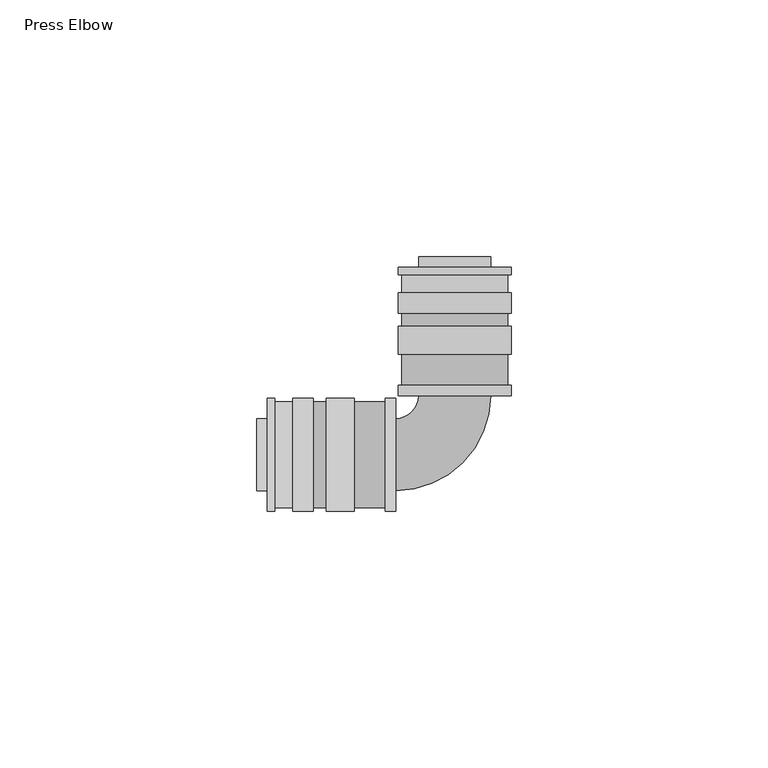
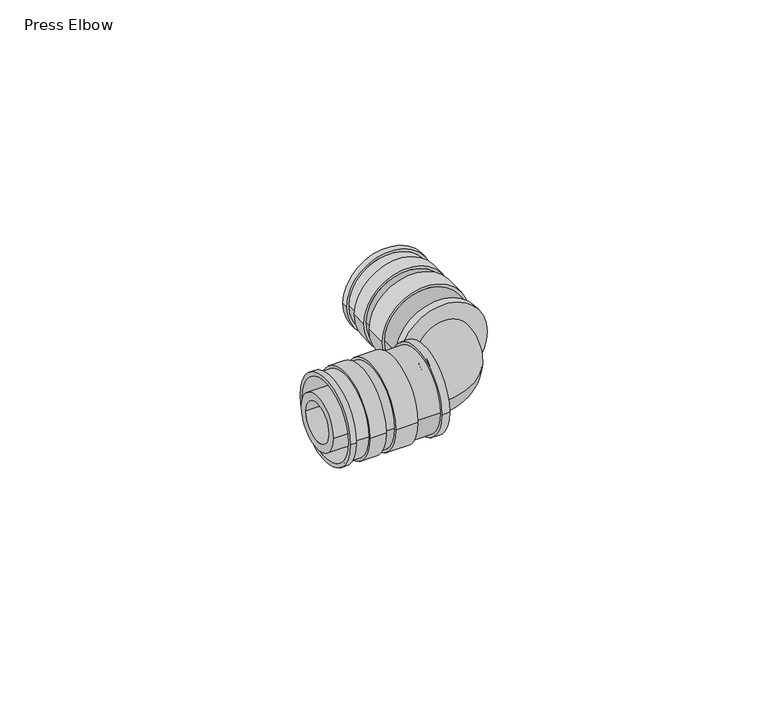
"""IFC4 building model written with IfcOpenShell, lengths in millimetres: pipe fitting geometry, Press Elbow : Superpipe Press Elbow."""

from ifc_helpers import new_model, si_unit, point, frame, origin, origin_2d, place, context, project, spatial, polyline, circle_curve, ellipse_curve, trimmed, segment, composite_curve, outline, extrude, source, transform, mapped, element, save
from ifc_brep_helpers import plane_surface, cylinder_surface, revolved_surface, advanced_brep


def press_elbow_8b702b1f(model_context):
    return source(origin(), model_context, "Body", "SolidModel", [
        advanced_brep(
        [(-10.3, 13.5, 0.0), (10.3, 13.5, 0.0), (10.0, 13.5, 0.0), (-10.0, 13.5, 0.0), (11.0, 36.5, 0.0), (-11.0, 36.5, 0.0), (10.0, 36.5, 0.0), (-10.0, 36.5, 0.0), (11.0, 35.0, 0.0), (-11.0, 35.0, 0.0), (11.0, 19.5, 0.0), (-11.0, 19.5, 0.0), (-11.0, 25.0, 0.0), (11.0, 25.0, 0.0), (11.0, 27.5, 0.0), (-11.0, 27.5, 0.0), (-11.0, 31.5, 0.0), (11.0, 31.5, 0.0), (10.3, 19.5, 0.0), (-10.3, 19.5, 0.0), (10.3, 25.0, 0.0), (-10.3, 25.0, 0.0), (10.3, 27.5, 0.0), (-10.3, 27.5, 0.0), (-10.3, 35.0, 0.0), (10.3, 35.0, 0.0), (-10.3, 31.5, 0.0), (10.3, 31.5, 0.0)],
        [
            (0, 1, circle_curve(frame((0.0, 13.5, 0.0), z_axis=(0.0, -1.0, 0.0), x_axis=(-1.0, 0.0, 0.0)), 10.3)),
            (1, 0, circle_curve(frame((0.0, 13.5, 0.0), z_axis=(0.0, -1.0, 0.0), x_axis=(-1.0, 0.0, 0.0)), 10.3)),
            (2, 3, circle_curve(frame((0.0, 13.5, 0.0), z_axis=(0.0, 1.0, 0.0), x_axis=(-1.0, 0.0, 0.0)), 10.0)),
            (3, 2, circle_curve(frame((0.0, 13.5, 0.0), z_axis=(0.0, 1.0, 0.0), x_axis=(-1.0, 0.0, 0.0)), 10.0)),
            (4, 5, circle_curve(frame((0.0, 36.5, 0.0), z_axis=(0.0, 1.0, 0.0), x_axis=(-1.0, 0.0, 0.0)), 11.0)),
            (5, 4, circle_curve(frame((0.0, 36.5, 0.0), z_axis=(0.0, 1.0, 0.0), x_axis=(-1.0, 0.0, 0.0)), 11.0)),
            (6, 7, circle_curve(frame((0.0, 36.5, 0.0), z_axis=(0.0, -1.0, 0.0), x_axis=(-1.0, 0.0, 0.0)), 10.0)),
            (7, 6, circle_curve(frame((0.0, 36.5, 0.0), z_axis=(0.0, -1.0, 0.0), x_axis=(-1.0, 0.0, 0.0)), 10.0)),
            (4, 8),
            (8, 9, circle_curve(frame((0.0, 35.0, 0.0), z_axis=(0.0, 1.0, 0.0), x_axis=(-1.0, 0.0, 0.0)), 11.0)),
            (9, 5),
            (10, 11, circle_curve(frame((0.0, 19.5, 0.0), z_axis=(0.0, 1.0, 0.0), x_axis=(-1.0, 0.0, 0.0)), 11.0)),
            (11, 12),
            (12, 13, circle_curve(frame((0.0, 25.0, 0.0), z_axis=(0.0, -1.0, 0.0), x_axis=(-1.0, 0.0, 0.0)), 11.0)),
            (13, 10),
            (14, 15, circle_curve(frame((0.0, 27.5, 0.0), z_axis=(0.0, 1.0, 0.0), x_axis=(-1.0, 0.0, 0.0)), 11.0)),
            (15, 16),
            (16, 17, circle_curve(frame((0.0, 31.5, 0.0), z_axis=(0.0, -1.0, 0.0), x_axis=(-1.0, 0.0, 0.0)), 11.0)),
            (17, 14),
            (9, 8, circle_curve(frame((0.0, 35.0, 0.0), z_axis=(0.0, 1.0, 0.0), x_axis=(-1.0, 0.0, 0.0)), 11.0)),
            (11, 10, circle_curve(frame((0.0, 19.5, 0.0), z_axis=(0.0, 1.0, 0.0), x_axis=(-1.0, 0.0, 0.0)), 11.0)),
            (13, 12, circle_curve(frame((0.0, 25.0, 0.0), z_axis=(0.0, -1.0, 0.0), x_axis=(-1.0, 0.0, 0.0)), 11.0)),
            (15, 14, circle_curve(frame((0.0, 27.5, 0.0), z_axis=(0.0, 1.0, 0.0), x_axis=(-1.0, 0.0, 0.0)), 11.0)),
            (17, 16, circle_curve(frame((0.0, 31.5, 0.0), z_axis=(0.0, -1.0, 0.0), x_axis=(-1.0, 0.0, 0.0)), 11.0)),
            (3, 7),
            (6, 2),
            (18, 19, circle_curve(frame((0.0, 19.5, 0.0), z_axis=(0.0, 1.0, 0.0), x_axis=(-1.0, 0.0, 0.0)), 10.3)),
            (19, 18, circle_curve(frame((0.0, 19.5, 0.0), z_axis=(0.0, 1.0, 0.0), x_axis=(-1.0, 0.0, 0.0)), 10.3)),
            (18, 1),
            (0, 19),
            (20, 21, circle_curve(frame((0.0, 25.0, 0.0), z_axis=(0.0, -1.0, 0.0), x_axis=(-1.0, 0.0, 0.0)), 10.3)),
            (21, 20, circle_curve(frame((0.0, 25.0, 0.0), z_axis=(0.0, -1.0, 0.0), x_axis=(-1.0, 0.0, 0.0)), 10.3)),
            (22, 23, circle_curve(frame((0.0, 27.5, 0.0), z_axis=(0.0, 1.0, 0.0), x_axis=(-1.0, 0.0, 0.0)), 10.3)),
            (23, 22, circle_curve(frame((0.0, 27.5, 0.0), z_axis=(0.0, 1.0, 0.0), x_axis=(-1.0, 0.0, 0.0)), 10.3)),
            (21, 23),
            (22, 20),
            (24, 25, circle_curve(frame((0.0, 35.0, 0.0), z_axis=(0.0, 1.0, 0.0), x_axis=(1.0, 0.0, 0.0)), 10.3)),
            (25, 24, circle_curve(frame((0.0, 35.0, 0.0), z_axis=(0.0, 1.0, 0.0), x_axis=(1.0, 0.0, 0.0)), 10.3)),
            (26, 27, circle_curve(frame((0.0, 31.5, 0.0), z_axis=(0.0, -1.0, 0.0), x_axis=(1.0, 0.0, 0.0)), 10.3)),
            (27, 26, circle_curve(frame((0.0, 31.5, 0.0), z_axis=(0.0, -1.0, 0.0), x_axis=(1.0, 0.0, 0.0)), 10.3)),
            (25, 27),
            (26, 24),
        ],
        [
            plane_surface(frame((0.0, 13.5, 0.0), z_axis=(0.0, -1.0, 0.0), x_axis=(0.0, 0.0, 1.0))),
            plane_surface(frame((0.0, 36.5, 0.0), z_axis=(0.0, 1.0, 0.0), x_axis=(0.0, 0.0, 1.0))),
            cylinder_surface(frame((0.0, 13.5, 0.0), z_axis=(0.0, -1.0, 0.0), x_axis=(-1.0, 0.0, 0.0)), 11.0),
            revolved_surface(polyline([(-10.0, 36.5, 0.0), (-10.0, 13.5, 0.0)]), (0.0, 13.5, 0.0), (0.0, 1.0, 0.0)),
            plane_surface(frame((0.0, 19.5, 0.0), z_axis=(0.0, -1.0, 0.0), x_axis=(0.0, 0.0, 1.0))),
            cylinder_surface(frame((0.0, 13.5, 0.0), z_axis=(0.0, 1.0, 0.0), x_axis=(-1.0, 0.0, 0.0)), 10.3),
            plane_surface(frame((0.0, 25.0, 0.0), z_axis=(0.0, 1.0, 0.0), x_axis=(0.0, 0.0, 1.0))),
            plane_surface(frame((0.0, 27.5, 0.0), z_axis=(0.0, -1.0, 0.0), x_axis=(0.0, 0.0, 1.0))),
            cylinder_surface(frame((0.0, 25.0, 0.0), z_axis=(0.0, 1.0, 0.0), x_axis=(-1.0, 0.0, 0.0)), 10.3),
            plane_surface(frame((0.0, 35.0, 0.0), z_axis=(0.0, -1.0, 0.0), x_axis=(0.0, 0.0, 1.0))),
            plane_surface(frame((0.0, 31.5, 0.0), z_axis=(0.0, 1.0, 0.0), x_axis=(0.0, 0.0, 1.0))),
            cylinder_surface(frame((0.0, 35.0, 0.0), z_axis=(0.0, -1.0, 0.0), x_axis=(1.0, 0.0, 0.0)), 10.3),
        ],
        [
            (0, [[1, 2], [3, 4]]),
            (1, [[5, 6], [7, 8]]),
            (2, [[-5, 9, 10, 11]]),
            (2, [[12, 13, 14, 15]]),
            (2, [[16, 17, 18, 19]]),
            (2, [[-6, -11, 20, -9]]),
            (2, [[21, -15, 22, -13]]),
            (2, [[23, -19, 24, -17]]),
            (3, [[-4, 25, -7, 26]]),
            (3, [[-3, -26, -8, -25]]),
            (4, [[-12, -21], [27, 28]]),
            (5, [[-27, 29, -1, 30]]),
            (5, [[-28, -30, -2, -29]]),
            (6, [[-14, -22], [31, 32]]),
            (7, [[-16, -23], [33, 34]]),
            (8, [[-32, 35, -33, 36]]),
            (8, [[-31, -36, -34, -35]]),
            (9, [[-10, -20], [37, 38]]),
            (10, [[-18, -24], [39, 40]]),
            (11, [[-38, 41, -39, 42]]),
            (11, [[-37, -42, -40, -41]]),
        ],
    ),
        advanced_brep(
        [(-13.5, -10.3, 0.0), (-13.5, 10.3, 0.0), (-13.5, 10.0, 0.0), (-13.5, -10.0, 0.0), (-36.5, 11.0, 0.0), (-36.5, -11.0, 0.0), (-36.5, 10.0, 0.0), (-36.5, -10.0, 0.0), (-35.0, 11.0, 0.0), (-35.0, -11.0, 0.0), (-25.0, -11.0, 0.0), (-25.0, 11.0, 0.0), (-19.5, 11.0, 0.0), (-19.5, -11.0, 0.0), (-27.5, 11.0, 0.0), (-27.5, -11.0, 0.0), (-31.5, -11.0, 0.0), (-31.5, 11.0, 0.0), (-25.0, 10.3, 0.0), (-25.0, -10.3, 0.0), (-27.5, 10.3, 0.0), (-27.5, -10.3, 0.0), (-35.0, -10.3, 0.0), (-35.0, 10.3, 0.0), (-31.5, -10.3, 0.0), (-31.5, 10.3, 0.0), (-19.5, 10.3, 0.0), (-19.5, -10.3, 0.0)],
        [
            (0, 1, circle_curve(frame((-13.5, 0.0, 0.0), z_axis=(1.0, 0.0, 0.0), x_axis=(0.0, -1.0, 0.0)), 10.3)),
            (1, 0, circle_curve(frame((-13.5, 0.0, 0.0), z_axis=(1.0, 0.0, 0.0), x_axis=(0.0, -1.0, 0.0)), 10.3)),
            (2, 3, circle_curve(frame((-13.5, 0.0, 0.0), z_axis=(-1.0, 0.0, 0.0), x_axis=(0.0, -1.0, 0.0)), 10.0)),
            (3, 2, circle_curve(frame((-13.5, 0.0, 0.0), z_axis=(-1.0, 0.0, 0.0), x_axis=(0.0, -1.0, 0.0)), 10.0)),
            (4, 5, circle_curve(frame((-36.5, 0.0, 0.0), z_axis=(-1.0, 0.0, 0.0), x_axis=(0.0, -1.0, 0.0)), 11.0)),
            (5, 4, circle_curve(frame((-36.5, 0.0, 0.0), z_axis=(-1.0, 0.0, 0.0), x_axis=(0.0, -1.0, 0.0)), 11.0)),
            (6, 7, circle_curve(frame((-36.5, 0.0, 0.0), z_axis=(1.0, 0.0, 0.0), x_axis=(0.0, -1.0, 0.0)), 10.0)),
            (7, 6, circle_curve(frame((-36.5, 0.0, 0.0), z_axis=(1.0, 0.0, 0.0), x_axis=(0.0, -1.0, 0.0)), 10.0)),
            (3, 7),
            (6, 2),
            (4, 8),
            (8, 9, circle_curve(frame((-35.0, 0.0, 0.0), z_axis=(-1.0, 0.0, 0.0), x_axis=(0.0, -1.0, 0.0)), 11.0)),
            (9, 5),
            (10, 11, circle_curve(frame((-25.0, 0.0, 0.0), z_axis=(1.0, 0.0, 0.0), x_axis=(0.0, -1.0, 0.0)), 11.0)),
            (11, 12),
            (12, 13, circle_curve(frame((-19.5, 0.0, 0.0), z_axis=(-1.0, 0.0, 0.0), x_axis=(0.0, -1.0, 0.0)), 11.0)),
            (13, 10),
            (14, 15, circle_curve(frame((-27.5, 0.0, 0.0), z_axis=(-1.0, 0.0, 0.0), x_axis=(0.0, -1.0, 0.0)), 11.0)),
            (15, 16),
            (16, 17, circle_curve(frame((-31.5, 0.0, 0.0), z_axis=(1.0, 0.0, 0.0), x_axis=(0.0, -1.0, 0.0)), 11.0)),
            (17, 14),
            (9, 8, circle_curve(frame((-35.0, 0.0, 0.0), z_axis=(-1.0, 0.0, 0.0), x_axis=(0.0, -1.0, 0.0)), 11.0)),
            (11, 10, circle_curve(frame((-25.0, 0.0, 0.0), z_axis=(1.0, 0.0, 0.0), x_axis=(0.0, -1.0, 0.0)), 11.0)),
            (13, 12, circle_curve(frame((-19.5, 0.0, 0.0), z_axis=(-1.0, 0.0, 0.0), x_axis=(0.0, -1.0, 0.0)), 11.0)),
            (15, 14, circle_curve(frame((-27.5, 0.0, 0.0), z_axis=(-1.0, 0.0, 0.0), x_axis=(0.0, -1.0, 0.0)), 11.0)),
            (17, 16, circle_curve(frame((-31.5, 0.0, 0.0), z_axis=(1.0, 0.0, 0.0), x_axis=(0.0, -1.0, 0.0)), 11.0)),
            (18, 19, circle_curve(frame((-25.0, 0.0, 0.0), z_axis=(1.0, 0.0, 0.0), x_axis=(0.0, -1.0, 0.0)), 10.3)),
            (19, 18, circle_curve(frame((-25.0, 0.0, 0.0), z_axis=(1.0, 0.0, 0.0), x_axis=(0.0, -1.0, 0.0)), 10.3)),
            (20, 21, circle_curve(frame((-27.5, 0.0, 0.0), z_axis=(-1.0, 0.0, 0.0), x_axis=(0.0, -1.0, 0.0)), 10.3)),
            (21, 20, circle_curve(frame((-27.5, 0.0, 0.0), z_axis=(-1.0, 0.0, 0.0), x_axis=(0.0, -1.0, 0.0)), 10.3)),
            (19, 21),
            (20, 18),
            (22, 23, circle_curve(frame((-35.0, 0.0, 0.0), z_axis=(-1.0, 0.0, 0.0), x_axis=(0.0, 1.0, 0.0)), 10.3)),
            (23, 22, circle_curve(frame((-35.0, 0.0, 0.0), z_axis=(-1.0, 0.0, 0.0), x_axis=(0.0, 1.0, 0.0)), 10.3)),
            (24, 25, circle_curve(frame((-31.5, 0.0, 0.0), z_axis=(1.0, 0.0, 0.0), x_axis=(0.0, 1.0, 0.0)), 10.3)),
            (25, 24, circle_curve(frame((-31.5, 0.0, 0.0), z_axis=(1.0, 0.0, 0.0), x_axis=(0.0, 1.0, 0.0)), 10.3)),
            (23, 25),
            (24, 22),
            (26, 27, circle_curve(frame((-19.5, 0.0, 0.0), z_axis=(-1.0, 0.0, 0.0), x_axis=(0.0, -1.0, 0.0)), 10.3)),
            (27, 26, circle_curve(frame((-19.5, 0.0, 0.0), z_axis=(-1.0, 0.0, 0.0), x_axis=(0.0, -1.0, 0.0)), 10.3)),
            (26, 1),
            (0, 27),
        ],
        [
            plane_surface(frame((-13.5, 0.0, 0.0), z_axis=(1.0, 0.0, 0.0), x_axis=(0.0, 0.0, 1.0))),
            plane_surface(frame((-36.5, 0.0, 0.0), z_axis=(-1.0, 0.0, 0.0), x_axis=(0.0, 0.0, 1.0))),
            revolved_surface(polyline([(-36.5, -10.0, 0.0), (-13.5, -10.0, 0.0)]), (-13.5, 0.0, 0.0), (-1.0, 0.0, 0.0)),
            cylinder_surface(frame((-13.5, 0.0, 0.0), z_axis=(1.0, 0.0, 0.0), x_axis=(0.0, -1.0, 0.0)), 11.0),
            plane_surface(frame((-25.0, 0.0, 0.0), z_axis=(-1.0, 0.0, 0.0), x_axis=(0.0, 0.0, 1.0))),
            plane_surface(frame((-27.5, 0.0, 0.0), z_axis=(1.0, 0.0, 0.0), x_axis=(0.0, 0.0, 1.0))),
            cylinder_surface(frame((-25.0, 0.0, 0.0), z_axis=(-1.0, 0.0, 0.0), x_axis=(0.0, -1.0, 0.0)), 10.3),
            plane_surface(frame((-35.0, 0.0, 0.0), z_axis=(1.0, 0.0, 0.0), x_axis=(0.0, 0.0, 1.0))),
            plane_surface(frame((-31.5, 0.0, 0.0), z_axis=(-1.0, 0.0, 0.0), x_axis=(0.0, 0.0, 1.0))),
            cylinder_surface(frame((-35.0, 0.0, 0.0), z_axis=(1.0, 0.0, 0.0), x_axis=(0.0, 1.0, 0.0)), 10.3),
            plane_surface(frame((-19.5, 0.0, 0.0), z_axis=(1.0, 0.0, 0.0), x_axis=(0.0, 0.0, 1.0))),
            cylinder_surface(frame((-13.5, 0.0, 0.0), z_axis=(-1.0, 0.0, 0.0), x_axis=(0.0, -1.0, 0.0)), 10.3),
        ],
        [
            (0, [[1, 2], [3, 4]]),
            (1, [[5, 6], [7, 8]]),
            (2, [[-4, 9, -7, 10]]),
            (2, [[-3, -10, -8, -9]]),
            (3, [[-5, 11, 12, 13]]),
            (3, [[14, 15, 16, 17]]),
            (3, [[18, 19, 20, 21]]),
            (3, [[-6, -13, 22, -11]]),
            (3, [[23, -17, 24, -15]]),
            (3, [[25, -21, 26, -19]]),
            (4, [[-14, -23], [27, 28]]),
            (5, [[-18, -25], [29, 30]]),
            (6, [[-28, 31, -29, 32]]),
            (6, [[-27, -32, -30, -31]]),
            (7, [[-12, -22], [33, 34]]),
            (8, [[-20, -26], [35, 36]]),
            (9, [[-34, 37, -35, 38]]),
            (9, [[-33, -38, -36, -37]]),
            (10, [[-16, -24], [39, 40]]),
            (11, [[-39, 41, -1, 42]]),
            (11, [[-40, -42, -2, -41]]),
        ],
    ),
        extrude(outline(composite_curve([segment(trimmed(circle_curve(origin_2d(), 7.0), [point((0.0, 7.0))], [point((0.0, -7.0))], False, "CARTESIAN"), True, "CONTINUOUS"), segment(trimmed(circle_curve(origin_2d(), 7.0), [point((0.0, -7.0))], [point((0.0, 7.0))], False, "CARTESIAN"), True, "CONTINUOUS")], self_intersect=False), holes=[composite_curve([segment(trimmed(circle_curve(origin_2d(), 5.0), [point((0.0, 5.0))], [point((0.0, -5.0))], True, "CARTESIAN"), True, "CONTINUOUS"), segment(trimmed(circle_curve(origin_2d(), 5.0), [point((0.0, -5.0))], [point((0.0, 5.0))], True, "CARTESIAN"), True, "CONTINUOUS")], self_intersect=False)]), frame((0.0, 13.5, 0.0), z_axis=(0.0, 1.0, 0.0), x_axis=(0.0, 0.0, 1.0)), (0.0, 0.0, 1.0), 25.0),
        extrude(outline(composite_curve([segment(trimmed(circle_curve(origin_2d(), 11.0), [point((0.0, 11.0))], [point((0.0, -11.0))], False, "CARTESIAN"), True, "CONTINUOUS"), segment(trimmed(circle_curve(origin_2d(), 11.0), [point((0.0, -11.0))], [point((0.0, 11.0))], False, "CARTESIAN"), True, "CONTINUOUS")], self_intersect=False), holes=[composite_curve([segment(trimmed(circle_curve(origin_2d(), 5.0), [point((0.0, 5.0))], [point((0.0, -5.0))], True, "CARTESIAN"), True, "CONTINUOUS"), segment(trimmed(circle_curve(origin_2d(), 5.0), [point((0.0, -5.0))], [point((0.0, 5.0))], True, "CARTESIAN"), True, "CONTINUOUS")], self_intersect=False)]), frame((0.0, 11.5, 0.0), z_axis=(0.0, 1.0, 0.0), x_axis=(0.0, 0.0, 1.0)), (0.0, 0.0, 1.0), 2.0),
        extrude(outline(composite_curve([segment(trimmed(circle_curve(origin_2d(), 11.0), [point((11.0, 0.0))], [point((-11.0, 0.0))], False, "CARTESIAN"), True, "CONTINUOUS"), segment(trimmed(circle_curve(origin_2d(), 11.0), [point((-11.0, 0.0))], [point((11.0, 0.0))], False, "CARTESIAN"), True, "CONTINUOUS")], self_intersect=False), holes=[composite_curve([segment(trimmed(circle_curve(origin_2d(), 5.0), [point((5.0, 0.0))], [point((-5.0, 0.0))], True, "CARTESIAN"), True, "CONTINUOUS"), segment(trimmed(circle_curve(origin_2d(), 5.0), [point((-5.0, 0.0))], [point((5.0, 0.0))], True, "CARTESIAN"), True, "CONTINUOUS")], self_intersect=False)]), frame((-13.5, 0.0, 0.0), z_axis=(1.0, 0.0, 0.0), x_axis=(0.0, 1.0, 0.0)), (0.0, 0.0, 1.0), 2.0),
        extrude(outline(composite_curve([segment(trimmed(circle_curve(origin_2d(), 7.0), [point((7.0, 0.0))], [point((-7.0, 0.0))], False, "CARTESIAN"), True, "CONTINUOUS"), segment(trimmed(circle_curve(origin_2d(), 7.0), [point((-7.0, 0.0))], [point((7.0, 0.0))], False, "CARTESIAN"), True, "CONTINUOUS")], self_intersect=False), holes=[composite_curve([segment(trimmed(circle_curve(origin_2d(), 5.0), [point((5.0, 0.0))], [point((-5.0, 0.0))], True, "CARTESIAN"), True, "CONTINUOUS"), segment(trimmed(circle_curve(origin_2d(), 5.0), [point((-5.0, 0.0))], [point((5.0, 0.0))], True, "CARTESIAN"), True, "CONTINUOUS")], self_intersect=False)]), frame((-38.5, 0.0, 0.0), z_axis=(1.0, 0.0, 0.0), x_axis=(0.0, 1.0, 0.0)), (0.0, 0.0, 1.0), 25.0),
        advanced_brep(
        [(-11.5, -5.0, 0.0), (-11.5, 5.0, 0.0), (5.0, 11.5, 0.0), (-5.0, 11.5, 0.0)],
        [
            (0, 1, circle_curve(frame((-11.5, 0.0, 0.0), z_axis=(-1.0, 0.0, 0.0), x_axis=(0.0, 1.0, 0.0)), 5.0)),
            (1, 0, circle_curve(frame((-11.5, 0.0, 0.0), z_axis=(-1.0, 0.0, 0.0), x_axis=(0.0, 1.0, 0.0)), 5.0)),
            (2, 3, circle_curve(frame((0.0, 11.5, 0.0), z_axis=(0.0, 1.0, 0.0), x_axis=(-1.0, 0.0, 0.0)), 5.0)),
            (3, 2, circle_curve(frame((0.0, 11.5, 0.0), z_axis=(0.0, 1.0, 0.0), x_axis=(-1.0, 0.0, 0.0)), 5.0)),
            (3, 1, circle_curve(frame((-11.5, 11.5, 0.0), z_axis=(0.0, 0.0, -1.0), x_axis=(0.0, -1.0, 0.0)), 6.5)),
            (0, 2, circle_curve(frame((-11.5, 11.5, 0.0), z_axis=(0.0, 0.0, 1.0), x_axis=(0.0, -1.0, 0.0)), 16.5)),
        ],
        [
            plane_surface(frame((-11.5, 0.0, 0.0), z_axis=(-1.0, 0.0, 0.0), x_axis=(0.0, 0.0, 1.0))),
            plane_surface(frame((0.0, 11.5, 0.0), z_axis=(0.0, 1.0, 0.0), x_axis=(0.0, 0.0, 1.0))),
            revolved_surface(trimmed(ellipse_curve(frame((-11.5, 0.0, 0.0), z_axis=(-1.0, 0.0, 0.0), x_axis=(0.0, 1.0, 0.0)), 5.0, 5.0), [point((-11.5, -5.0, 0.0))], [point((-11.5, 5.0, 0.0))], True, "CARTESIAN"), (-11.5, 11.5, 0.0), (0.0, 0.0, 1.0)),
            revolved_surface(trimmed(ellipse_curve(frame((-11.5, 0.0, 0.0), z_axis=(-1.0, 0.0, 0.0), x_axis=(0.0, 1.0, 0.0)), 5.0, 5.0), [point((-11.5, 5.0, 0.0))], [point((-11.5, -5.0, 0.0))], True, "CARTESIAN"), (-11.5, 11.5, 0.0), (0.0, 0.0, 1.0)),
        ],
        [
            (0, [[1, 2]]),
            (1, [[3, 4]]),
            (2, [[5, -1, 6, -4]]),
            (3, [[-6, -2, -5, -3]]),
        ],
    ),
        advanced_brep(
        [(-11.5, -7.0, 0.0), (-11.5, 7.0, 0.0), (7.0, 11.5, 0.0), (-7.0, 11.5, 0.0)],
        [
            (0, 1, circle_curve(frame((-11.5, 0.0, 0.0), z_axis=(-1.0, 0.0, 0.0), x_axis=(0.0, 1.0, 0.0)), 7.0)),
            (1, 0, circle_curve(frame((-11.5, 0.0, 0.0), z_axis=(-1.0, 0.0, 0.0), x_axis=(0.0, 1.0, 0.0)), 7.0)),
            (2, 3, circle_curve(frame((0.0, 11.5, 0.0), z_axis=(0.0, 1.0, 0.0), x_axis=(-1.0, 0.0, 0.0)), 7.0)),
            (3, 2, circle_curve(frame((0.0, 11.5, 0.0), z_axis=(0.0, 1.0, 0.0), x_axis=(-1.0, 0.0, 0.0)), 7.0)),
            (3, 1, circle_curve(frame((-11.5, 11.5, 0.0), z_axis=(0.0, 0.0, -1.0), x_axis=(0.0, -1.0, 0.0)), 4.5)),
            (0, 2, circle_curve(frame((-11.5, 11.5, 0.0), z_axis=(0.0, 0.0, 1.0), x_axis=(0.0, -1.0, 0.0)), 18.5)),
        ],
        [
            plane_surface(frame((-11.5, 0.0, 0.0), z_axis=(-1.0, 0.0, 0.0), x_axis=(0.0, 0.0, 1.0))),
            plane_surface(frame((0.0, 11.5, 0.0), z_axis=(0.0, 1.0, 0.0), x_axis=(0.0, 0.0, 1.0))),
            revolved_surface(trimmed(ellipse_curve(frame((-11.5, 0.0, 0.0), z_axis=(-1.0, 0.0, 0.0), x_axis=(0.0, 1.0, 0.0)), 7.0, 7.0), [point((-11.5, -7.0, 0.0))], [point((-11.5, 7.0, 0.0))], True, "CARTESIAN"), (-11.5, 11.5, 0.0), (0.0, 0.0, 1.0)),
            revolved_surface(trimmed(ellipse_curve(frame((-11.5, 0.0, 0.0), z_axis=(-1.0, 0.0, 0.0), x_axis=(0.0, 1.0, 0.0)), 7.0, 7.0), [point((-11.5, 7.0, 0.0))], [point((-11.5, -7.0, 0.0))], True, "CARTESIAN"), (-11.5, 11.5, 0.0), (0.0, 0.0, 1.0)),
        ],
        [
            (0, [[1, 2]]),
            (1, [[3, 4]]),
            (2, [[5, -1, 6, -4]]),
            (3, [[-6, -2, -5, -3]]),
        ],
    ),
    ])


if __name__ == "__main__":
    model = new_model("IFC4")
    model_context = context("Model", 3, world=origin())
    ifc_project = project(units=[si_unit("LENGTHUNIT", "METRE", prefix="MILLI")], contexts=[model_context])
    site = spatial("IfcSite", under=ifc_project)
    building = spatial("IfcBuilding", under=site)
    placement = place(None, origin())
    press_elbow_shape = press_elbow_8b702b1f(model_context)
    element("IfcPipeFitting", 1, ObjectType="Press Elbow : Superpipe Press Elbow", at=placement, inside=building, context=model_context, shape_type="MappedRepresentation", body=[
        mapped(press_elbow_shape, transform((0.0, 0.0, 0.0), x_axis=(1.0, 0.0, 0.0), y_axis=(0.0, 1.0, 0.0), z_axis=(0.0, 0.0, 1.0))),
    ])
    save(model, "model.ifc")
